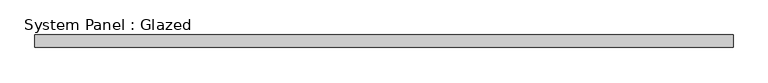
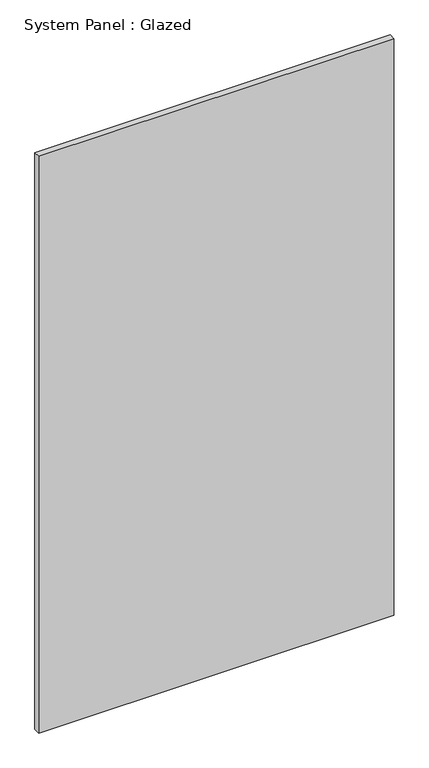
"""IFC4 building model written with IfcOpenShell, lengths in millimetres: plate geometry, System Panel : Glazed."""

from ifc_helpers import new_model, si_unit, origin, origin_with_axes, place, context, project, spatial, polyline, outline, extrude, source, transform, mapped, element, save


def system_panel_glazed_ff4bdd81(model_context):
    return source(origin(), model_context, "Body", "SweptSolid", [
        extrude(outline(polyline([(696.2366102, -49.5), (-696.2366102, -49.5), (-696.2366102, -24.5), (696.2366102, -24.5), (696.2366102, -49.5)])), origin_with_axes(), (0.0, 0.0, 1.0), 2390.0),
    ])


if __name__ == "__main__":
    model = new_model("IFC4")
    model_context = context("Model", 3, world=origin())
    ifc_project = project(units=[si_unit("LENGTHUNIT", "METRE", prefix="MILLI")], contexts=[model_context])
    site = spatial("IfcSite", under=ifc_project)
    building = spatial("IfcBuilding", under=site)
    placement = place(None, origin())
    system_panel_glazed_shape = system_panel_glazed_ff4bdd81(model_context)
    element("IfcPlate", 1, ObjectType="System Panel : Glazed", at=placement, inside=building, context=model_context, shape_type="MappedRepresentation", body=[
        mapped(system_panel_glazed_shape, transform((0.0, 0.0, 0.0), x_axis=(1.0, 0.0, 0.0), y_axis=(0.0, 1.0, 0.0), z_axis=(0.0, 0.0, 1.0))),
    ])
    save(model, "model.ifc")
